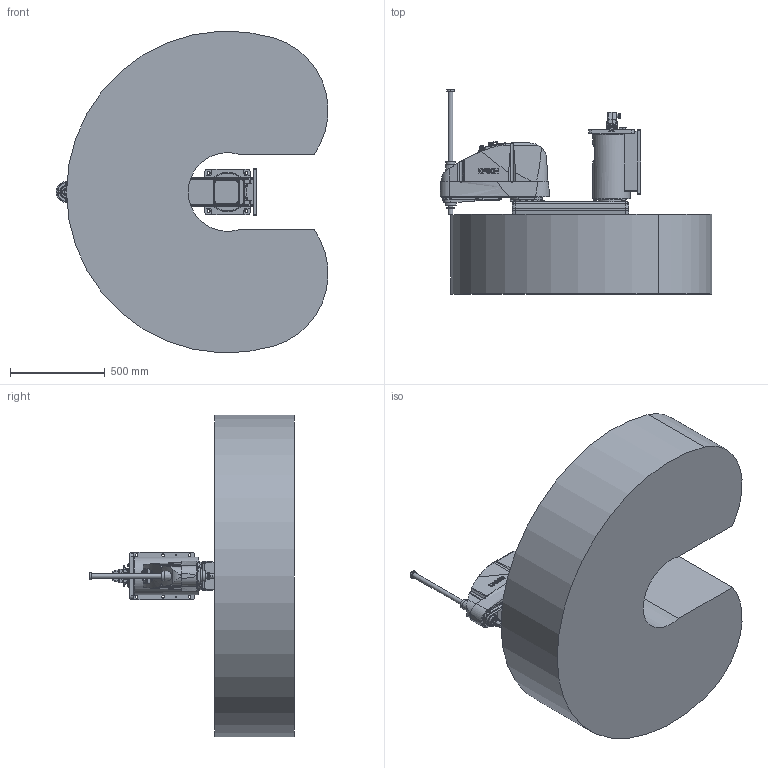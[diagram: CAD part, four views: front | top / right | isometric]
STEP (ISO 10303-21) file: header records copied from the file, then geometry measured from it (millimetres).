
FILE_DESCRIPTION( ( 'STEP AP214' ), '1' );
FILE_NAME( 'C:/Users/9607552/Desktop/GX10-B854SW_langle.stp', '2023-08-01T09:23:15', ( '' ), ( '' ), ' ', 'PARTsolutions', ' ' );
FILE_SCHEMA( ( 'AUTOMOTIVE_DESIGN { 1 0 10303 214 1 1 1 1 }' ) );
Length unit declared in the file: millimetre
Products named in the file (7): GX10-B854SWA-W; _Base sw; _Angle-B; _J1 Arm GX10-450 r/w; _J2 Arm GX10-s; _J3 Arm GX10-s (4); _GX10_20B-28_4
Assembly tree (6 placements, depth 2):
  GX10-B854SWA-W
    _Base sw
    _Angle-B
    _J1 Arm GX10-450 r/w
    _J2 Arm GX10-s
    _J3 Arm GX10-s (4)
    _GX10_20B-28_4
Bounding box: 1435.96 x 1080 x 1698.44 mm (x, y, z)
Volume: 740678833.8 mm3; surface area: 7493414.7 mm2
Topology: 6 solids, 6 shells, 2525 faces, 6201 edges, 4057 vertices
Faces by surface type: plane 1326, cylinder 802, cone 302, torus 62, bspline 32, sphere 1
Full cylindrical faces by diameter (mm): 1 x24, 1.18 x55, 2.5 x2, 3 x32, 3.242 x10, 3.3 x4, 4.2 x4, 4.8 x4, 5.1 x4, 5.25 x2, 5.34 x8, 5.4 x5, 5.5 x16, 6 x2, 6.2 x4, 6.647 x2, 6.8 x2, 7 x23, 7.59 x8, 8 x9, 8.5 x2, 9 x4, 10 x32, 11 x14, 12 x6, 12.25 x1, 13 x8, 14 x20, 14.25 x1, 16 x6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
Entity records: 95621 total; most frequent: CARTESIAN_POINT 17907, DIRECTION 11889, ORIENTED_EDGE 11000, EDGE_CURVE 5500, AXIS2_PLACEMENT_3D 4543, VERTEX_POINT 3968, EDGE_LOOP 3560, FACE_OUTER_BOUND 2920
